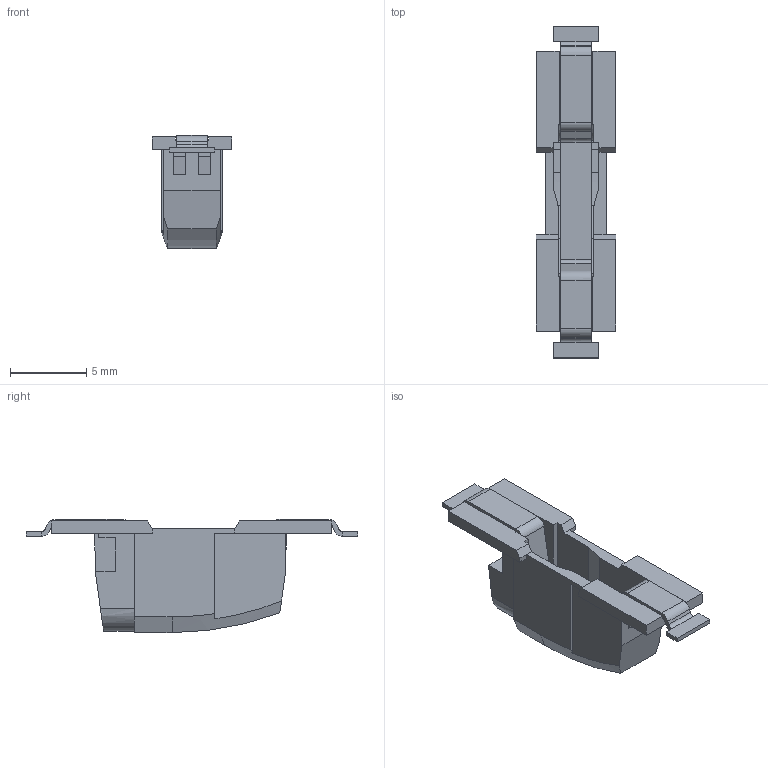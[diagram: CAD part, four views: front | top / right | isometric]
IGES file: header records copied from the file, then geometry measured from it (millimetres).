
Global section: file name: C:\CoreTechnologie\3D-in/01WYJ00Y0W.igs; native system: CT CoreTechnologie 3D Evolution; preprocessor: 2006; date: 1180923.111105; units: millimetre
Bounding box: 5.2 x 21.72 x 7.4 mm (x, y, z)
Volume: 188.3 mm3; surface area: 665.7 mm2
Topology: 1 solids, 1 shells, 260 faces, 727 edges, 483 vertices
Faces by surface type: plane 205, revolution 41, bspline 14
